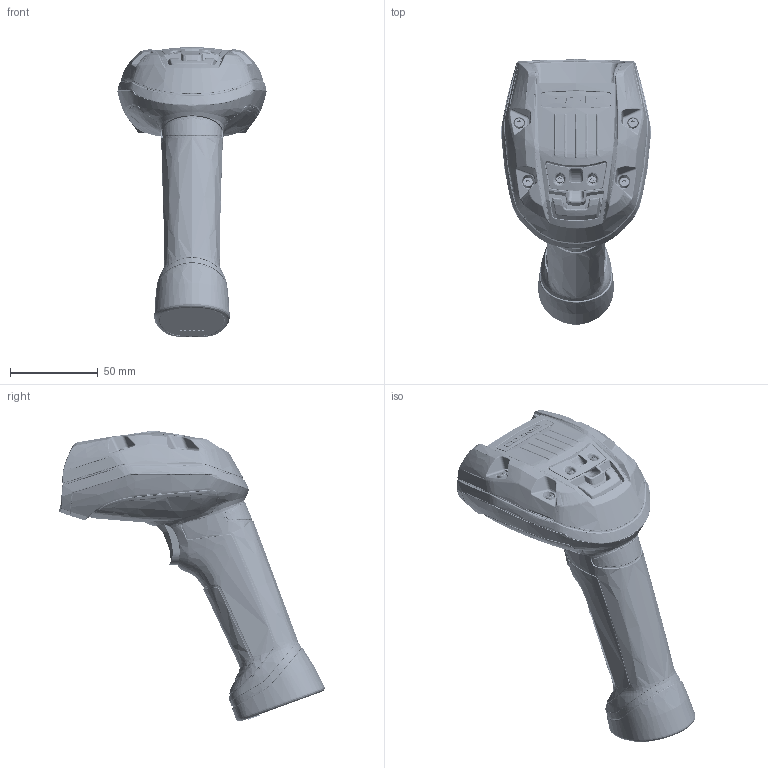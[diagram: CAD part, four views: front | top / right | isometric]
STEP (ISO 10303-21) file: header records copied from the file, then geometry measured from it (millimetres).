
FILE_DESCRIPTION (( 'STEP AP214' ), '1' );
FILE_NAME ('DM8072-DL_CAD_as_part_as_step.STEP', '2018-06-14T13:17:31', ( '' ), ( '' ), 'SwSTEP 2.0', 'SolidWorks 2018', '' );
FILE_SCHEMA (( 'AUTOMOTIVE_DESIGN' ));
Length unit declared in the file: millimetre
Products named in the file (1): DM8072-DL_CAD_as_part_as_step
Bounding box: 85.71 x 151.59 x 166.27 mm (x, y, z)
Volume: 393451.9 mm3; surface area: 131153.4 mm2
Topology: 17 solids, 23 shells, 9374 faces, 23422 edges, 13922 vertices
Faces by surface type: bspline 5808, plane 1516, cylinder 1287, sphere 468, cone 189, torus 106
Full cylindrical faces by diameter (mm): 2.2 x2, 2.5 x2, 3 x8, 4 x6, 5 x1, 5.5 x8
Entity records: 831536 total; most frequent: CARTESIAN_POINT 556419, ORIENTED_EDGE 45718, EDGE_CURVE 22859, DIRECTION 21098, VERTEX_POINT 13660, B_SPLINE_CURVE_WITH_KNOTS 12962, EDGE_LOOP 9581, FACE_OUTER_BOUND 9423
